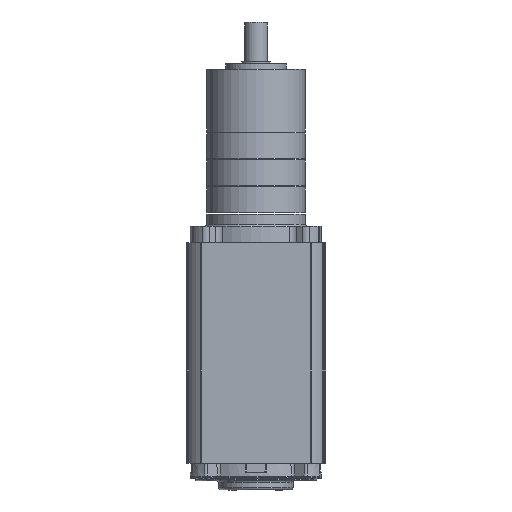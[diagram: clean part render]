
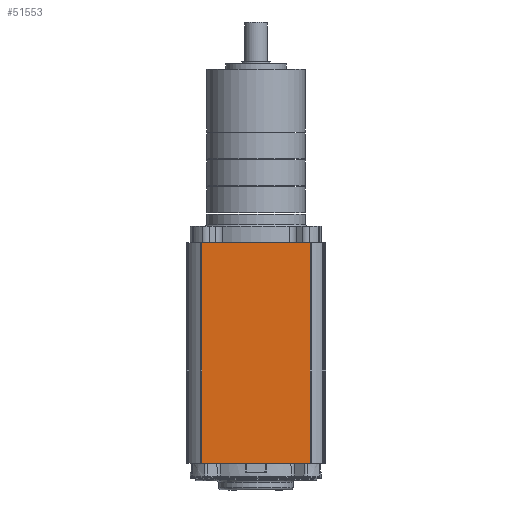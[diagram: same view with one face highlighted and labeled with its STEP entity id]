
A CAD part, front view. The second image highlights one B-rep face of the part: STEP entity #51553.
In plain terms, the highlighted planar face has unit normal (0, -1, 0).
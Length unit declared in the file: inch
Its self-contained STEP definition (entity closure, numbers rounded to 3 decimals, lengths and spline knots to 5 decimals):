
#1138 = EDGE_LOOP ( 'NONE', ( #5132, #11265, #27313, #17275 ) ) ;
#2945 = EDGE_CURVE ( 'NONE', #50847, #23741, #36368, .T. ) ;
#3124 = CARTESIAN_POINT ( 'NONE',  ( 1.1275, -1.442, -6.41754 ) ) ;
#5132 = ORIENTED_EDGE ( 'NONE', *, *, #14729, .T. ) ;
#6650 = PLANE ( 'NONE',  #53786 ) ;
#6816 = DIRECTION ( 'NONE',  ( 0., -1., 0. ) ) ;
#7385 = VERTEX_POINT ( 'NONE', #9202 ) ;
#8375 = VECTOR ( 'NONE', #23306, 39.37008 ) ;
#9202 = CARTESIAN_POINT ( 'NONE',  ( 1.1275, -1.442, -1.83454 ) ) ;
#9672 = LINE ( 'NONE', #30536, #53396 ) ;
#10690 = CARTESIAN_POINT ( 'NONE',  ( 1.1275, -1.442, -6.41754 ) ) ;
#11265 = ORIENTED_EDGE ( 'NONE', *, *, #2945, .F. ) ;
#13614 = DIRECTION ( 'NONE',  ( 0., 0., -1. ) ) ;
#14729 = EDGE_CURVE ( 'NONE', #25857, #23741, #9672, .T. ) ;
#14846 = CARTESIAN_POINT ( 'NONE',  ( 1.1275, -1.442, -6.55254 ) ) ;
#15309 = DIRECTION ( 'NONE',  ( -1., 0., 0. ) ) ;
#17275 = ORIENTED_EDGE ( 'NONE', *, *, #50615, .F. ) ;
#19445 = EDGE_CURVE ( 'NONE', #50847, #7385, #29755, .T. ) ;
#21991 = DIRECTION ( 'NONE',  ( 1., 0., 0. ) ) ;
#23306 = DIRECTION ( 'NONE',  ( 0., 0., 1. ) ) ;
#23741 = VERTEX_POINT ( 'NONE', #26729 ) ;
#25233 = VECTOR ( 'NONE', #15309, 39.37008 ) ;
#25857 = VERTEX_POINT ( 'NONE', #29073 ) ;
#26729 = CARTESIAN_POINT ( 'NONE',  ( -1.1275, -1.442, -6.41754 ) ) ;
#27313 = ORIENTED_EDGE ( 'NONE', *, *, #19445, .T. ) ;
#29073 = CARTESIAN_POINT ( 'NONE',  ( -1.1275, -1.442, -1.83454 ) ) ;
#29755 = LINE ( 'NONE', #14846, #8375 ) ;
#30536 = CARTESIAN_POINT ( 'NONE',  ( -1.1275, -1.442, -6.55254 ) ) ;
#32347 = CARTESIAN_POINT ( 'NONE',  ( -1.1475, -1.442, -6.55254 ) ) ;
#36368 = LINE ( 'NONE', #3124, #25233 ) ;
#36541 = DIRECTION ( 'NONE',  ( 1., 0., 0. ) ) ;
#39488 = FACE_OUTER_BOUND ( 'NONE', #1138, .T. ) ;
#47206 = CARTESIAN_POINT ( 'NONE',  ( -1.1475, -1.442, -1.83454 ) ) ;
#48379 = VECTOR ( 'NONE', #21991, 39.37008 ) ;
#49690 = LINE ( 'NONE', #47206, #48379 ) ;
#50615 = EDGE_CURVE ( 'NONE', #25857, #7385, #49690, .T. ) ;
#50847 = VERTEX_POINT ( 'NONE', #10690 ) ;
#51553 = ADVANCED_FACE ( 'NONE', ( #39488 ), #6650, .T. ) ;
#53396 = VECTOR ( 'NONE', #13614, 39.37008 ) ;
#53786 = AXIS2_PLACEMENT_3D ( 'NONE', #32347, #6816, #36541 ) ;
